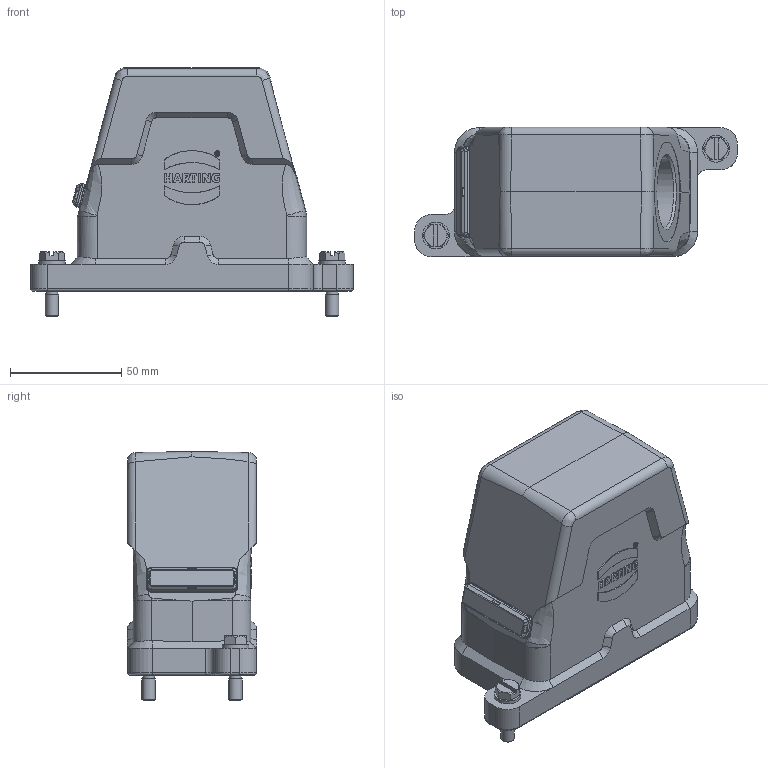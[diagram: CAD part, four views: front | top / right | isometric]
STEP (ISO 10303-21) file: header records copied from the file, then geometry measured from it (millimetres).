
FILE_DESCRIPTION(/* description */ (''),/* implementation_level */ '2;1');
FILE_NAME(/* name */ '100578894ugm000_b.stp',/* time_stamp */ '2014-06-16T08:07:22+02:00',/* author */ (''),/* organization */ (''),/* preprocessor_version */ 'ST-DEVELOPER v15',/* originating_system */ 'SIEMENS PLM Software NX 8.5',/* authorisation */ '');
FILE_SCHEMA (('AUTOMOTIVE_DESIGN { 1 0 10303 214 3 1 1 1 }'));
Length unit declared in the file: millimetre
Products named in the file (1): 100578894ugm000_b
Bounding box: 145 x 58 x 111.9 mm (x, y, z)
Volume: 180148.5 mm3; surface area: 68192.6 mm2
Topology: 1 solids, 1 shells, 618 faces, 1526 edges, 922 vertices
Faces by surface type: plane 251, cylinder 166, bspline 113, cone 68, sphere 20
Full cylindrical faces by diameter (mm): 1.75 x1, 2.453 x1, 3 x4, 5.3 x2, 6 x2, 6.2 x2, 12 x2, 12.9 x2, 32 x1, 45 x1
Entity records: 24589 total; most frequent: CARTESIAN_POINT 7416, ORIENTED_EDGE 2886, DIRECTION 2637, EDGE_CURVE 1443, AXIS2_PLACEMENT_3D 930, VERTEX_POINT 904, LINE 777, VECTOR 777
